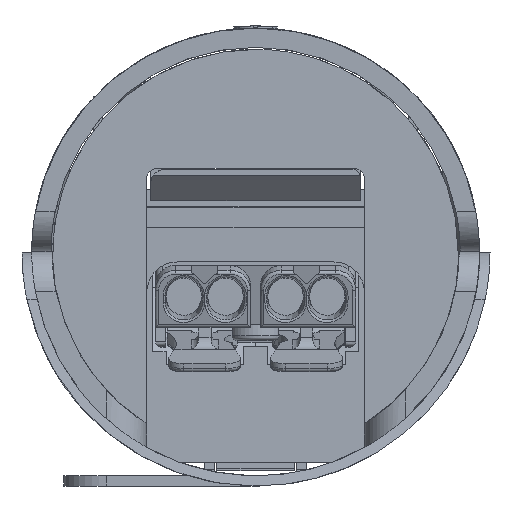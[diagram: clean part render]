
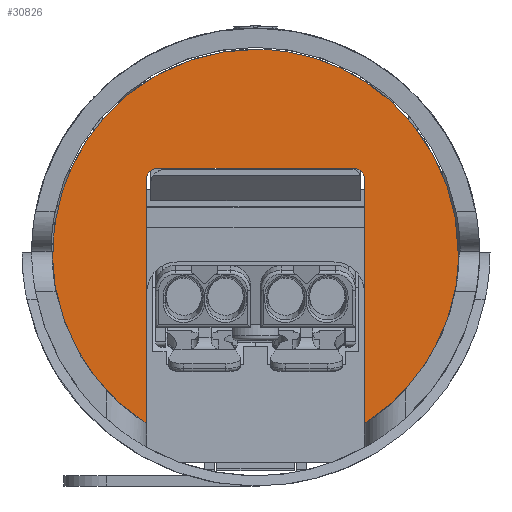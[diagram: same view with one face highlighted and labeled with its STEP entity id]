
A CAD part, left-side view. The second image highlights one B-rep face of the part: STEP entity #30826.
In plain terms, the highlighted planar face has unit normal (-1, 0, 0.009).
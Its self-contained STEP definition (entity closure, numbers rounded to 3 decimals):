
#699=B_SPLINE_CURVE_WITH_KNOTS('',3,(#55901,#55902,#55903,#55904,#55905,
#55906,#55907,#55908,#55909,#55910,#55911,#55912,#55913,#55914,#55915,#55916,
#55917),.UNSPECIFIED.,.F.,.F.,(4,1,1,1,1,1,1,1,1,1,1,1,1,1,4),(0.,0.125,
0.188,0.25,0.313,0.375,0.438,0.5,0.563,0.625,0.688,0.75,0.813,0.875,
1.),.UNSPECIFIED.);
#700=B_SPLINE_CURVE_WITH_KNOTS('',3,(#55919,#55920,#55921,#55922,#55923,
#55924,#55925,#55926,#55927,#55928,#55929,#55930,#55931,#55932,#55933,#55934,
#55935),.UNSPECIFIED.,.F.,.F.,(4,1,1,1,1,1,1,1,1,1,1,1,1,1,4),(0.,0.125,
0.188,0.25,0.313,0.375,0.438,0.5,0.563,0.625,0.688,0.75,0.813,0.875,
1.),.UNSPECIFIED.);
#1166=ELLIPSE('',#36530,1.,1.);
#1167=ELLIPSE('',#36531,20.001,20.);
#1168=ELLIPSE('',#36532,20.001,20.);
#1169=ELLIPSE('',#36533,1.,1.);
#4168=ORIENTED_EDGE('',*,*,#12120,.T.);
#4169=ORIENTED_EDGE('',*,*,#12121,.T.);
#4170=ORIENTED_EDGE('',*,*,#12122,.T.);
#4171=ORIENTED_EDGE('',*,*,#12123,.T.);
#4172=ORIENTED_EDGE('',*,*,#12124,.T.);
#4173=ORIENTED_EDGE('',*,*,#12125,.T.);
#4174=ORIENTED_EDGE('',*,*,#12126,.T.);
#4175=ORIENTED_EDGE('',*,*,#12127,.T.);
#4176=ORIENTED_EDGE('',*,*,#12128,.T.);
#4177=ORIENTED_EDGE('',*,*,#12099,.F.);
#4178=ORIENTED_EDGE('',*,*,#12129,.T.);
#12099=EDGE_CURVE('',#16579,#16580,#19700,.T.);
#12120=EDGE_CURVE('',#16592,#16593,#19721,.T.);
#12121=EDGE_CURVE('',#16593,#16594,#1166,.F.);
#12122=EDGE_CURVE('',#16594,#16595,#19722,.T.);
#12123=EDGE_CURVE('',#16595,#16596,#1167,.T.);
#12124=EDGE_CURVE('',#16596,#16597,#19723,.T.);
#12125=EDGE_CURVE('',#16597,#16598,#699,.T.);
#12126=EDGE_CURVE('',#16598,#16599,#700,.T.);
#12127=EDGE_CURVE('',#16599,#16600,#19724,.T.);
#12128=EDGE_CURVE('',#16600,#16580,#1168,.T.);
#12129=EDGE_CURVE('',#16579,#16592,#1169,.F.);
#16579=VERTEX_POINT('',#55850);
#16580=VERTEX_POINT('',#55852);
#16592=VERTEX_POINT('',#55891);
#16593=VERTEX_POINT('',#55892);
#16594=VERTEX_POINT('',#55894);
#16595=VERTEX_POINT('',#55896);
#16596=VERTEX_POINT('',#55898);
#16597=VERTEX_POINT('',#55900);
#16598=VERTEX_POINT('',#55918);
#16599=VERTEX_POINT('',#55936);
#16600=VERTEX_POINT('',#55938);
#19700=LINE('',#55851,#23193);
#19721=LINE('',#55890,#23214);
#19722=LINE('',#55895,#23215);
#19723=LINE('',#55899,#23216);
#19724=LINE('',#55937,#23217);
#23193=VECTOR('',#39605,1000.);
#23214=VECTOR('',#39638,1000.);
#23215=VECTOR('',#39641,1000.);
#23216=VECTOR('',#39644,1000.);
#23217=VECTOR('',#39645,1000.);
#26448=EDGE_LOOP('',(#4168,#4169,#4170,#4171,#4172,#4173,#4174,#4175,#4176,
#4177,#4178));
#28080=FACE_BOUND('',#26448,.T.);
#29456=PLANE('',#36529);
#30826=ADVANCED_FACE('',(#28080),#29456,.T.);
#36529=AXIS2_PLACEMENT_3D('',#55889,#39636,#39637);
#36530=AXIS2_PLACEMENT_3D('',#55893,#39639,#39640);
#36531=AXIS2_PLACEMENT_3D('',#55897,#39642,#39643);
#36532=AXIS2_PLACEMENT_3D('',#55939,#39646,#39647);
#36533=AXIS2_PLACEMENT_3D('',#55940,#39648,#39649);
#39605=DIRECTION('',(-0.009,0.,-1.));
#39636=DIRECTION('',(-1.,0.,0.009));
#39637=DIRECTION('',(-0.009,0.,-1.));
#39638=DIRECTION('',(0.,-1.,0.));
#39639=DIRECTION('',(-1.,0.,0.009));
#39640=DIRECTION('',(-0.009,0.,-1.));
#39641=DIRECTION('',(-0.009,0.,-1.));
#39642=DIRECTION('',(-1.,0.,0.009));
#39643=DIRECTION('',(-0.009,0.,-1.));
#39644=DIRECTION('',(0.,1.,0.));
#39645=DIRECTION('',(0.,1.,0.));
#39646=DIRECTION('',(-1.,0.,0.009));
#39647=DIRECTION('',(-0.009,0.,-1.));
#39648=DIRECTION('',(-1.,0.,0.009));
#39649=DIRECTION('',(-0.009,0.,-1.));
#55850=CARTESIAN_POINT('',(490.114,23.196,1.151));
#55851=CARTESIAN_POINT('',(490.009,23.196,-10.897));
#55852=CARTESIAN_POINT('',(489.904,23.196,-22.946));
#55889=CARTESIAN_POINT('',(489.872,10.484,-26.638));
#55890=CARTESIAN_POINT('',(490.123,17.346,2.151));
#55891=CARTESIAN_POINT('',(490.123,22.196,2.151));
#55892=CARTESIAN_POINT('',(490.123,2.796,2.151));
#55893=CARTESIAN_POINT('',(490.114,2.796,1.151));
#55894=CARTESIAN_POINT('',(490.114,1.796,1.151));
#55895=CARTESIAN_POINT('',(490.009,1.796,-10.897));
#55896=CARTESIAN_POINT('',(489.904,1.796,-22.946));
#55897=CARTESIAN_POINT('',(490.051,12.496,-6.049));
#55898=CARTESIAN_POINT('',(490.051,-7.504,-6.049));
#55899=CARTESIAN_POINT('',(490.051,-7.454,-6.049));
#55900=CARTESIAN_POINT('',(490.051,-7.404,-6.049));
#55901=CARTESIAN_POINT('',(490.051,-7.404,-6.049));
#55902=CARTESIAN_POINT('',(490.062,-7.404,-4.779));
#55903=CARTESIAN_POINT('',(490.079,-7.231,-2.915));
#55904=CARTESIAN_POINT('',(490.1,-6.644,-0.487));
#55905=CARTESIAN_POINT('',(490.115,-6.049,1.257));
#55906=CARTESIAN_POINT('',(490.131,-5.203,3.117));
#55907=CARTESIAN_POINT('',(490.146,-4.189,4.846));
#55908=CARTESIAN_POINT('',(490.161,-2.961,6.538));
#55909=CARTESIAN_POINT('',(490.174,-1.6,8.047));
#55910=CARTESIAN_POINT('',(490.186,-0.092,9.409));
#55911=CARTESIAN_POINT('',(490.197,1.598,10.636));
#55912=CARTESIAN_POINT('',(490.206,3.325,11.649));
#55913=CARTESIAN_POINT('',(490.213,5.191,12.496));
#55914=CARTESIAN_POINT('',(490.218,6.936,13.091));
#55915=CARTESIAN_POINT('',(490.223,9.365,13.679));
#55916=CARTESIAN_POINT('',(490.225,11.228,13.851));
#55917=CARTESIAN_POINT('',(490.225,12.496,13.851));
#55918=CARTESIAN_POINT('',(490.225,12.496,13.851));
#55919=CARTESIAN_POINT('',(490.225,12.496,13.851));
#55920=CARTESIAN_POINT('',(490.225,13.763,13.851));
#55921=CARTESIAN_POINT('',(490.223,15.626,13.678));
#55922=CARTESIAN_POINT('',(490.218,18.055,13.091));
#55923=CARTESIAN_POINT('',(490.213,19.801,12.496));
#55924=CARTESIAN_POINT('',(490.206,21.665,11.65));
#55925=CARTESIAN_POINT('',(490.197,23.395,10.636));
#55926=CARTESIAN_POINT('',(490.186,25.083,9.41));
#55927=CARTESIAN_POINT('',(490.174,26.592,8.047));
#55928=CARTESIAN_POINT('',(490.161,27.952,6.538));
#55929=CARTESIAN_POINT('',(490.146,29.181,4.845));
#55930=CARTESIAN_POINT('',(490.131,30.194,3.118));
#55931=CARTESIAN_POINT('',(490.115,31.041,1.256));
#55932=CARTESIAN_POINT('',(490.1,31.636,-0.486));
#55933=CARTESIAN_POINT('',(490.079,32.223,-2.914));
#55934=CARTESIAN_POINT('',(490.062,32.396,-4.778));
#55935=CARTESIAN_POINT('',(490.051,32.396,-6.049));
#55936=CARTESIAN_POINT('',(490.051,32.396,-6.049));
#55937=CARTESIAN_POINT('',(490.051,32.446,-6.049));
#55938=CARTESIAN_POINT('',(490.051,32.496,-6.049));
#55939=CARTESIAN_POINT('',(490.051,12.496,-6.049));
#55940=CARTESIAN_POINT('',(490.114,22.196,1.151));
